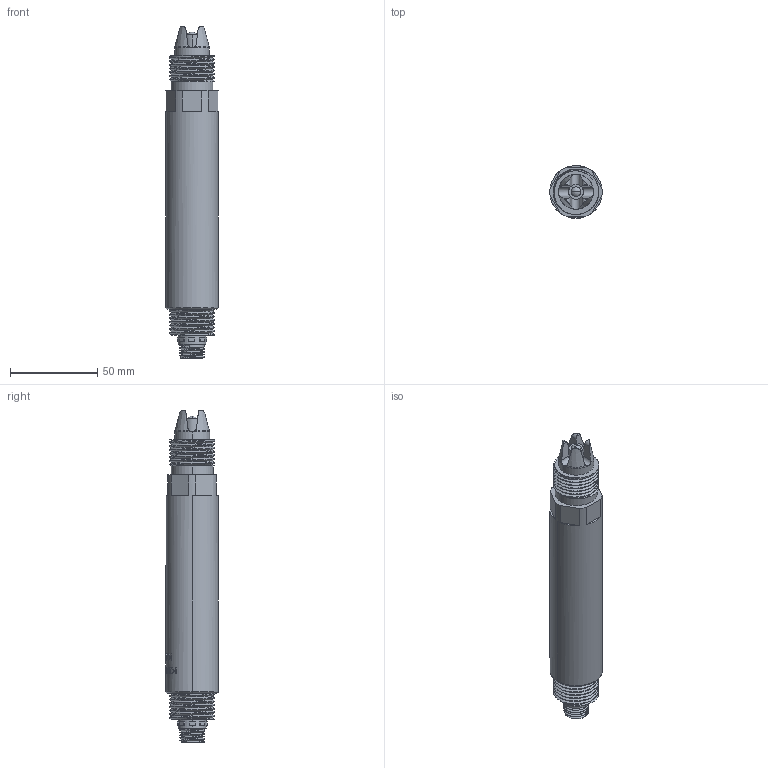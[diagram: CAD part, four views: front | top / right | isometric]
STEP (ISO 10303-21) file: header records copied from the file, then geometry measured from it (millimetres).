
FILE_DESCRIPTION((''),'2;1');
FILE_NAME('ASM0009_ASM','2026-01-26T09:42:14',('28740194'),(''),'CREO PARAMETRIC BY PTC INC, 2024063','CREO PARAMETRIC BY PTC INC, 2024063','');
FILE_SCHEMA(('CONFIG_CONTROL_DESIGN'));
Length unit declared in the file: millimetre
Products named in the file (6): KWS-750; 0001; 222000; 260_ASM; 0002; ASM0009_ASM
Assembly tree (6 placements, depth 3):
  ASM0009_ASM
    KWS-750
    260_ASM
      0001
      222000
    222000
    0002
Bounding box: 30 x 30.19 x 190 mm (x, y, z)
Volume: 108788.6 mm3; surface area: 22919.7 mm2
Topology: 5 solids, 5 shells, 605 faces, 1681 edges, 1115 vertices
Faces by surface type: bspline 425, cylinder 86, plane 82, torus 6, cone 4, sphere 2
Entity records: 27561 total; most frequent: CARTESIAN_POINT 15764, ORIENTED_EDGE 3228, EDGE_CURVE 1614, B_SPLINE_CURVE_WITH_KNOTS 1116, DIRECTION 1079, VERTEX_POINT 1073, EDGE_LOOP 611, FACE_OUTER_BOUND 580
